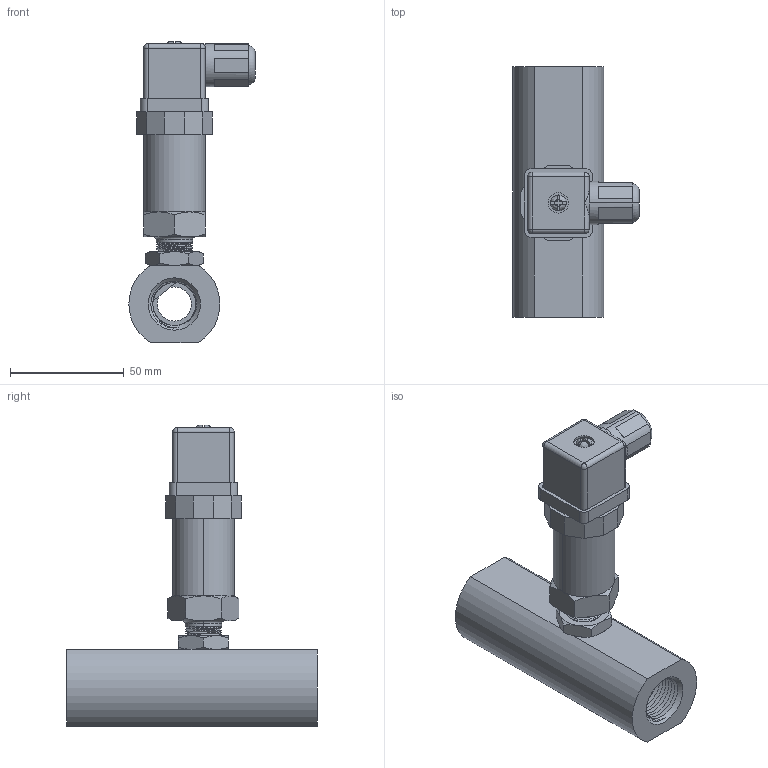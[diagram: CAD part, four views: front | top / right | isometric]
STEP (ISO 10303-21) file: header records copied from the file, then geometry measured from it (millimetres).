
FILE_DESCRIPTION( (''), '2;1');
FILE_NAME( 'QTKB_DN15_female-thread_DIN-plug.step', '2024-10-14T08:16:49+08:00', (''), (''), '', '', '');
FILE_SCHEMA (('AUTOMOTIVE_DESIGN { 1 0 10303 214 3 1 1 1 }'));
Length unit declared in the file: millimetre
Products named in the file (1): QTKB DN15_female-thread_DIN-plug
Bounding box: 55.5 x 110 x 132.5 mm (x, y, z)
Volume: 170994.5 mm3; surface area: 43322.9 mm2
Topology: 5 solids, 6 shells, 385 faces, 1024 edges, 667 vertices
Faces by surface type: plane 245, cylinder 57, cone 39, bspline 36, torus 4, sphere 4
Full cylindrical faces by diameter (mm): 15 x2, 19 x2
Entity records: 17030 total; most frequent: CARTESIAN_POINT 7844, ORIENTED_EDGE 2002, DIRECTION 1681, EDGE_CURVE 1001, VERTEX_POINT 658, LINE 635, VECTOR 635, AXIS2_PLACEMENT_3D 523
